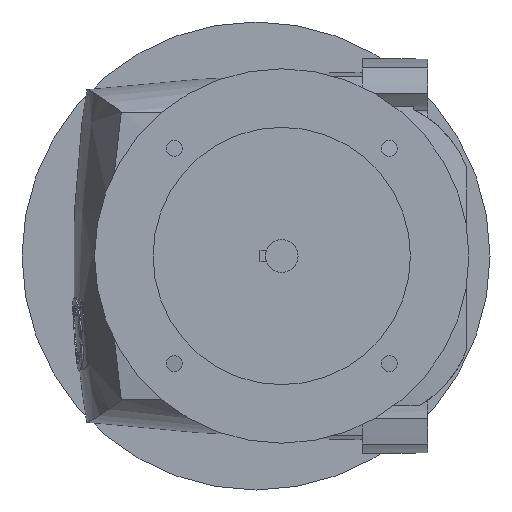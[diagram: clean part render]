
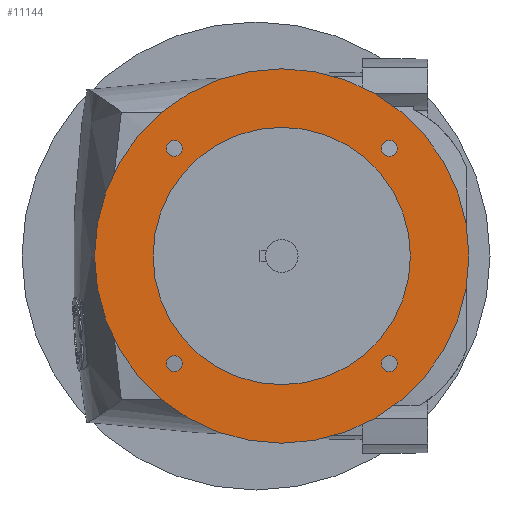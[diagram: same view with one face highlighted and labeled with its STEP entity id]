
A CAD part, left-side view. The second image highlights one B-rep face of the part: STEP entity #11144.
In plain terms, the highlighted planar face has unit normal (-1, 0, 0).
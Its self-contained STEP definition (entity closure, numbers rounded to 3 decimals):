
#2882=CARTESIAN_POINT('',(-123.5,124.962,-45.962));
#2883=DIRECTION('',(1.,0.,0.));
#2884=DIRECTION('',(0.,-1.,0.));
#2885=AXIS2_PLACEMENT_3D('',#2882,#2883,#2884);
#2887=CARTESIAN_POINT('',(-123.5,124.962,-45.962));
#2888=DIRECTION('',(1.,0.,0.));
#2889=DIRECTION('',(0.,1.,0.));
#2890=AXIS2_PLACEMENT_3D('',#2887,#2888,#2889);
#2892=CARTESIAN_POINT('',(-123.5,33.038,-45.962));
#2893=DIRECTION('',(1.,0.,0.));
#2894=DIRECTION('',(0.,-1.,0.));
#2895=AXIS2_PLACEMENT_3D('',#2892,#2893,#2894);
#2897=CARTESIAN_POINT('',(-123.5,33.038,-45.962));
#2898=DIRECTION('',(1.,0.,0.));
#2899=DIRECTION('',(0.,1.,0.));
#2900=AXIS2_PLACEMENT_3D('',#2897,#2898,#2899);
#2902=CARTESIAN_POINT('',(-123.5,33.038,45.962));
#2903=DIRECTION('',(1.,0.,0.));
#2904=DIRECTION('',(0.,-1.,0.));
#2905=AXIS2_PLACEMENT_3D('',#2902,#2903,#2904);
#2907=CARTESIAN_POINT('',(-123.5,33.038,45.962));
#2908=DIRECTION('',(1.,0.,0.));
#2909=DIRECTION('',(0.,1.,0.));
#2910=AXIS2_PLACEMENT_3D('',#2907,#2908,#2909);
#2912=CARTESIAN_POINT('',(-123.5,124.962,45.962));
#2913=DIRECTION('',(1.,0.,0.));
#2914=DIRECTION('',(0.,-1.,0.));
#2915=AXIS2_PLACEMENT_3D('',#2912,#2913,#2914);
#2917=CARTESIAN_POINT('',(-123.5,124.962,45.962));
#2918=DIRECTION('',(1.,0.,0.));
#2919=DIRECTION('',(0.,1.,0.));
#2920=AXIS2_PLACEMENT_3D('',#2917,#2918,#2919);
#2922=CARTESIAN_POINT('',(-123.5,79.,0.));
#2923=DIRECTION('',(1.,0.,0.));
#2924=DIRECTION('',(0.,-1.,0.));
#2925=AXIS2_PLACEMENT_3D('',#2922,#2923,#2924);
#2927=CARTESIAN_POINT('',(-123.5,79.,0.));
#2928=DIRECTION('',(1.,0.,0.));
#2929=DIRECTION('',(0.,1.,0.));
#2930=AXIS2_PLACEMENT_3D('',#2927,#2928,#2929);
#2932=CARTESIAN_POINT('',(-123.5,79.,0.));
#2933=DIRECTION('',(-1.,0.,0.));
#2934=DIRECTION('',(0.,-1.,0.));
#2935=AXIS2_PLACEMENT_3D('',#2932,#2933,#2934);
#2937=CARTESIAN_POINT('',(-123.5,79.,0.));
#2938=DIRECTION('',(-1.,0.,0.));
#2939=DIRECTION('',(0.,1.,0.));
#2940=AXIS2_PLACEMENT_3D('',#2937,#2938,#2939);
#6715=CARTESIAN_POINT('',(-123.5,159.,0.));
#6716=VERTEX_POINT('',#6715);
#6717=CARTESIAN_POINT('',(-123.5,-1.,0.));
#6718=VERTEX_POINT('',#6717);
#6719=CARTESIAN_POINT('',(-123.5,24.,0.));
#6720=CARTESIAN_POINT('',(-123.5,134.,0.));
#6721=VERTEX_POINT('',#6719);
#6722=VERTEX_POINT('',#6720);
#7215=CARTESIAN_POINT('',(-123.5,121.562,45.962));
#7216=CARTESIAN_POINT('',(-123.5,128.362,45.962));
#7217=VERTEX_POINT('',#7215);
#7218=VERTEX_POINT('',#7216);
#7219=CARTESIAN_POINT('',(-123.5,29.638,45.962));
#7220=CARTESIAN_POINT('',(-123.5,36.438,45.962));
#7221=VERTEX_POINT('',#7219);
#7222=VERTEX_POINT('',#7220);
#7223=CARTESIAN_POINT('',(-123.5,29.638,-45.962));
#7224=CARTESIAN_POINT('',(-123.5,36.438,-45.962));
#7225=VERTEX_POINT('',#7223);
#7226=VERTEX_POINT('',#7224);
#7227=CARTESIAN_POINT('',(-123.5,121.562,-45.962));
#7228=CARTESIAN_POINT('',(-123.5,128.362,-45.962));
#7229=VERTEX_POINT('',#7227);
#7230=VERTEX_POINT('',#7228);
#11104=CARTESIAN_POINT('',(-123.5,79.,0.));
#11105=DIRECTION('',(1.,0.,0.));
#11106=DIRECTION('',(0.,-1.,0.));
#11107=AXIS2_PLACEMENT_3D('',#11104,#11105,#11106);
#11108=PLANE('',#11107);
#11110=ORIENTED_EDGE('',*,*,#11109,.T.);
#11112=ORIENTED_EDGE('',*,*,#11111,.T.);
#11113=EDGE_LOOP('',(#11110,#11112));
#11114=FACE_OUTER_BOUND('',#11113,.F.);
#11115=ORIENTED_EDGE('',*,*,#11094,.F.);
#11117=ORIENTED_EDGE('',*,*,#11116,.F.);
#11118=EDGE_LOOP('',(#11115,#11117));
#11119=FACE_BOUND('',#11118,.F.);
#11121=ORIENTED_EDGE('',*,*,#11120,.F.);
#11123=ORIENTED_EDGE('',*,*,#11122,.F.);
#11124=EDGE_LOOP('',(#11121,#11123));
#11125=FACE_BOUND('',#11124,.F.);
#11127=ORIENTED_EDGE('',*,*,#11126,.F.);
#11129=ORIENTED_EDGE('',*,*,#11128,.F.);
#11130=EDGE_LOOP('',(#11127,#11129));
#11131=FACE_BOUND('',#11130,.F.);
#11133=ORIENTED_EDGE('',*,*,#11132,.F.);
#11135=ORIENTED_EDGE('',*,*,#11134,.F.);
#11136=EDGE_LOOP('',(#11133,#11135));
#11137=FACE_BOUND('',#11136,.F.);
#11139=ORIENTED_EDGE('',*,*,#11138,.T.);
#11141=ORIENTED_EDGE('',*,*,#11140,.T.);
#11142=EDGE_LOOP('',(#11139,#11141));
#11143=FACE_BOUND('',#11142,.F.);
#11144=ADVANCED_FACE('',(#11114,#11119,#11125,#11131,#11137,#11143),#11108,.F.);
#2886=CIRCLE('',#2885,3.4);
#2891=CIRCLE('',#2890,3.4);
#2896=CIRCLE('',#2895,3.4);
#2901=CIRCLE('',#2900,3.4);
#2906=CIRCLE('',#2905,3.4);
#2911=CIRCLE('',#2910,3.4);
#2916=CIRCLE('',#2915,3.4);
#2921=CIRCLE('',#2920,3.4);
#2926=CIRCLE('',#2925,80.);
#2931=CIRCLE('',#2930,80.);
#2936=CIRCLE('',#2935,55.);
#2941=CIRCLE('',#2940,55.);
#11094=EDGE_CURVE('',#7229,#7230,#2886,.T.);
#11109=EDGE_CURVE('',#6718,#6716,#2926,.T.);
#11111=EDGE_CURVE('',#6716,#6718,#2931,.T.);
#11116=EDGE_CURVE('',#7230,#7229,#2891,.T.);
#11120=EDGE_CURVE('',#7225,#7226,#2896,.T.);
#11122=EDGE_CURVE('',#7226,#7225,#2901,.T.);
#11126=EDGE_CURVE('',#7221,#7222,#2906,.T.);
#11128=EDGE_CURVE('',#7222,#7221,#2911,.T.);
#11132=EDGE_CURVE('',#7217,#7218,#2916,.T.);
#11134=EDGE_CURVE('',#7218,#7217,#2921,.T.);
#11138=EDGE_CURVE('',#6721,#6722,#2936,.T.);
#11140=EDGE_CURVE('',#6722,#6721,#2941,.T.);
